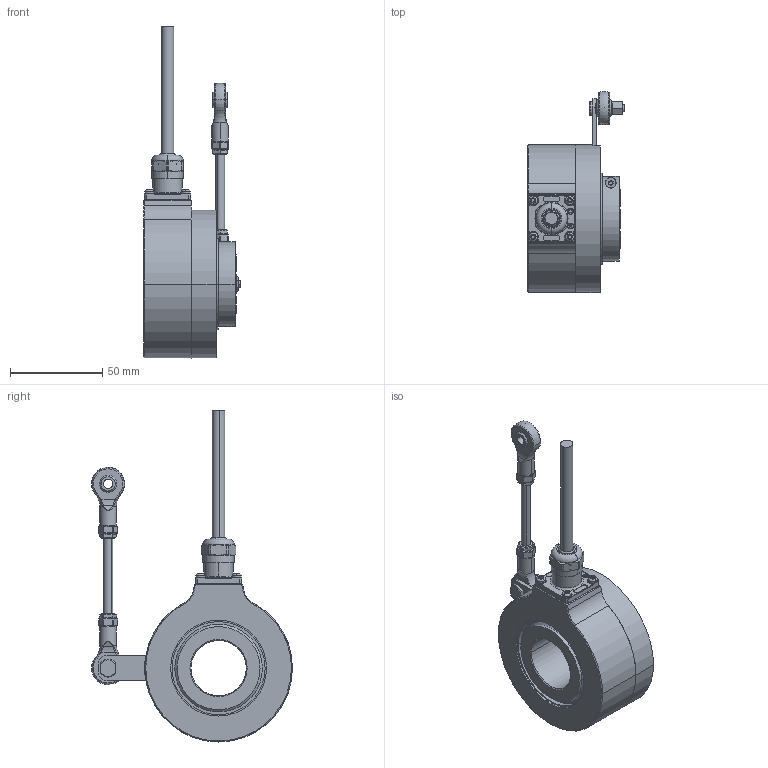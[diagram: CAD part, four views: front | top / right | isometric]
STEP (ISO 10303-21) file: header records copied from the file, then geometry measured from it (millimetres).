
FILE_DESCRIPTION (( 'STEP AP203' ), '1' );
FILE_NAME ('K80I.OXX.XXXXX.XH16830.6XR11.XXXX.step', '2025-12-09T08:19:35', ( '' ), ( '' ), 'SwSTEP 2.0', 'SolidWorks 2021', '' );
FILE_SCHEMA (( 'CONFIG_CONTROL_DESIGN' ));
Length unit declared in the file: millimetre
Products named in the file (1): K80I.OXX.XXXXX.XH16830.6XR11.XXXX
Bounding box: 52.6 x 108.97 x 180.07 mm (x, y, z)
Volume: 202944.8 mm3; surface area: 66144 mm2
Topology: 17 solids, 17 shells, 918 faces, 2311 edges, 1427 vertices
Faces by surface type: plane 306, cylinder 305, cone 120, bspline 92, torus 65, sphere 30
Entity records: 30607 total; most frequent: CARTESIAN_POINT 9019, ORIENTED_EDGE 4546, DIRECTION 4532, EDGE_CURVE 2273, AXIS2_PLACEMENT_3D 1780, VERTEX_POINT 1423, EDGE_LOOP 984, VECTOR 972
